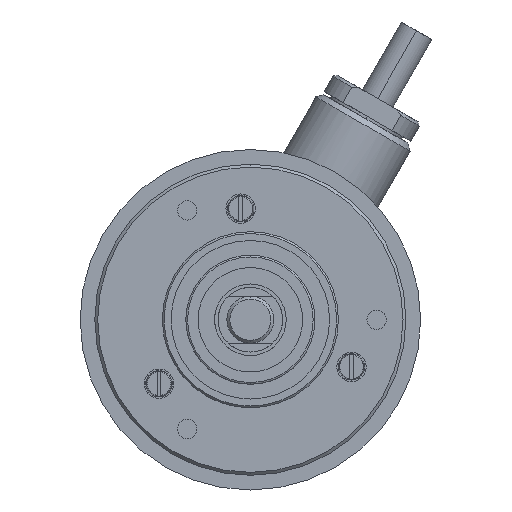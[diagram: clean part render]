
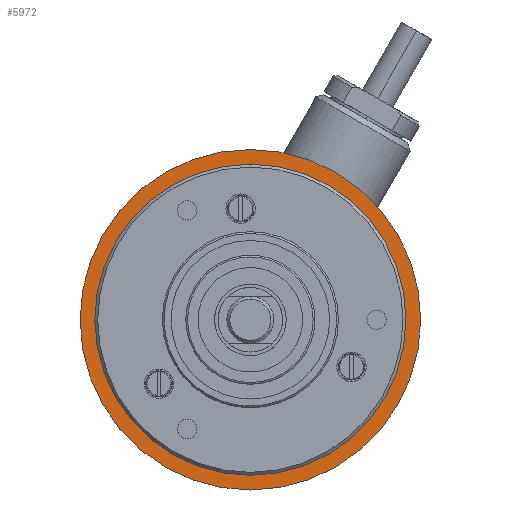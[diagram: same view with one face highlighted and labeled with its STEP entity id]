
A CAD part, left-side view. The second image highlights one B-rep face of the part: STEP entity #5972.
In plain terms, the highlighted planar face has unit normal (-1, 0, 0).
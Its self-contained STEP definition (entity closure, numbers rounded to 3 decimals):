
#55 = EDGE_CURVE ( 'NONE', #1849, #3198, #192, .T. ) ;
#135 = VERTEX_POINT ( 'NONE', #4770 ) ;
#192 = CIRCLE ( 'NONE', #8253, 26.5 ) ;
#294 = CARTESIAN_POINT ( 'NONE',  ( 39.077, 30.038, 62.494 ) ) ;
#316 = DIRECTION ( 'NONE',  ( 1., 0., 0. ) ) ;
#545 = AXIS2_PLACEMENT_3D ( 'NONE', #1109, #6626, #1911 ) ;
#1099 = EDGE_CURVE ( 'NONE', #3198, #1849, #6757, .T. ) ;
#1109 = CARTESIAN_POINT ( 'NONE',  ( 39.077, 30.038, 33.494 ) ) ;
#1777 = CARTESIAN_POINT ( 'NONE',  ( 39.077, 30.038, 33.494 ) ) ;
#1849 = VERTEX_POINT ( 'NONE', #7941 ) ;
#1877 = PLANE ( 'NONE',  #6927 ) ;
#1911 = DIRECTION ( 'NONE',  ( 0., 0., 1. ) ) ;
#1920 = EDGE_CURVE ( 'NONE', #3845, #135, #5785, .T. ) ;
#2392 = ORIENTED_EDGE ( 'NONE', *, *, #5772, .T. ) ;
#2560 = DIRECTION ( 'NONE',  ( 0., 0., 1. ) ) ;
#3008 = CARTESIAN_POINT ( 'NONE',  ( 39.077, 30.038, 59.994 ) ) ;
#3119 = CIRCLE ( 'NONE', #4985, 29. ) ;
#3182 = CARTESIAN_POINT ( 'NONE',  ( 39.077, 30.038, 33.494 ) ) ;
#3197 = CARTESIAN_POINT ( 'NONE',  ( 39.077, 30.038, 33.494 ) ) ;
#3198 = VERTEX_POINT ( 'NONE', #3008 ) ;
#3509 = EDGE_LOOP ( 'NONE', ( #6971, #2392 ) ) ;
#3845 = VERTEX_POINT ( 'NONE', #294 ) ;
#3874 = EDGE_LOOP ( 'NONE', ( #6143, #7520 ) ) ;
#3980 = DIRECTION ( 'NONE',  ( 0., 0., 1. ) ) ;
#3994 = DIRECTION ( 'NONE',  ( 0., 0., 1. ) ) ;
#4770 = CARTESIAN_POINT ( 'NONE',  ( 39.077, 30.038, 4.494 ) ) ;
#4984 = FACE_OUTER_BOUND ( 'NONE', #3509, .T. ) ;
#4985 = AXIS2_PLACEMENT_3D ( 'NONE', #3197, #8722, #3994 ) ;
#5022 = CARTESIAN_POINT ( 'NONE',  ( 39.077, 56.538, 33.494 ) ) ;
#5772 = EDGE_CURVE ( 'NONE', #135, #3845, #3119, .T. ) ;
#5785 = CIRCLE ( 'NONE', #9264, 29. ) ;
#5810 = DIRECTION ( 'NONE',  ( 0., 0., -1. ) ) ;
#5972 = ADVANCED_FACE ( 'NONE', ( #7846, #4984 ), #1877, .F. ) ;
#6143 = ORIENTED_EDGE ( 'NONE', *, *, #1099, .F. ) ;
#6626 = DIRECTION ( 'NONE',  ( -1., 0., 0. ) ) ;
#6757 = CIRCLE ( 'NONE', #545, 26.5 ) ;
#6927 = AXIS2_PLACEMENT_3D ( 'NONE', #5022, #316, #5810 ) ;
#6971 = ORIENTED_EDGE ( 'NONE', *, *, #1920, .T. ) ;
#7274 = DIRECTION ( 'NONE',  ( -1., 0., 0. ) ) ;
#7520 = ORIENTED_EDGE ( 'NONE', *, *, #55, .F. ) ;
#7846 = FACE_BOUND ( 'NONE', #3874, .T. ) ;
#7941 = CARTESIAN_POINT ( 'NONE',  ( 39.077, 30.038, 6.994 ) ) ;
#8253 = AXIS2_PLACEMENT_3D ( 'NONE', #3182, #8707, #3980 ) ;
#8707 = DIRECTION ( 'NONE',  ( -1., 0., 0. ) ) ;
#8722 = DIRECTION ( 'NONE',  ( -1., 0., 0. ) ) ;
#9264 = AXIS2_PLACEMENT_3D ( 'NONE', #1777, #7274, #2560 ) ;
